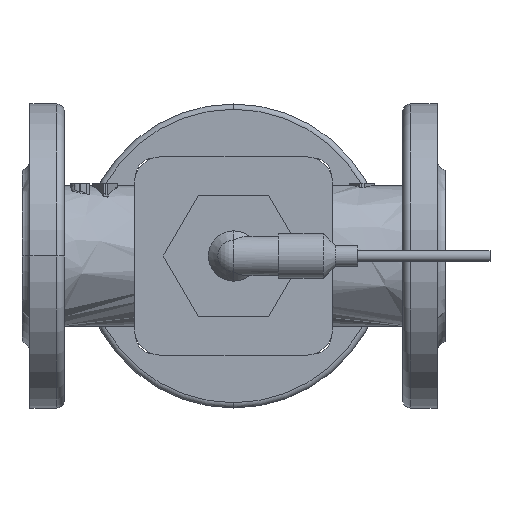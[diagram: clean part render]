
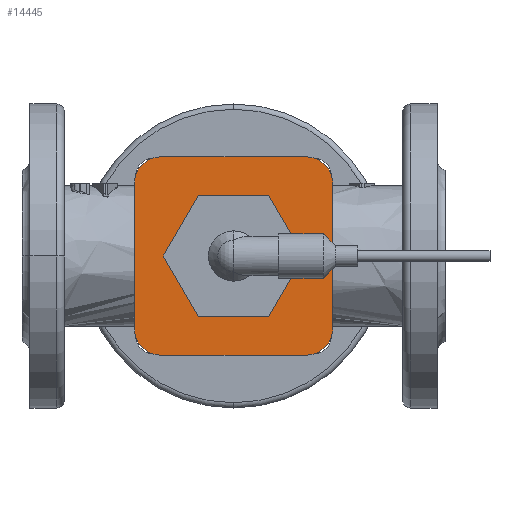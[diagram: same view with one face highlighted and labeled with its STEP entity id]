
A CAD part, front view. The second image highlights one B-rep face of the part: STEP entity #14445.
In plain terms, the highlighted planar face has unit normal (0, -1, 0).
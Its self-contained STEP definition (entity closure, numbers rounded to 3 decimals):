
#6345 = CARTESIAN_POINT ( 'NONE',  ( 0., 0., 20.5 ) ) ;
#6415 = CARTESIAN_POINT ( 'NONE',  ( 0., 0., 0. ) ) ;
#6416 = AXIS2_PLACEMENT_3D ( 'NONE', #6415, #6479, #6478 ) ;
#6417 = CIRCLE ( 'NONE', #6416, 20.5 ) ;
#6446 = DIRECTION ( 'NONE',  ( 0., 0., 1. ) ) ;
#6447 = DIRECTION ( 'NONE',  ( 0., 1., 0. ) ) ;
#6448 = CARTESIAN_POINT ( 'NONE',  ( 27.5, 0., -27.5 ) ) ;
#6449 = AXIS2_PLACEMENT_3D ( 'NONE', #6448, #6447, #6446 ) ;
#6450 = CARTESIAN_POINT ( 'NONE',  ( 27.5, 0., -27.5 ) ) ;
#6451 = PLANE ( 'NONE',  #6449 ) ;
#6452 = FACE_BOUND ( 'NONE', #14469, .T. ) ;
#6453 = FACE_OUTER_BOUND ( 'NONE', #14429, .T. ) ;
#6477 = CARTESIAN_POINT ( 'NONE',  ( 0., 0., -20.5 ) ) ;
#6478 = DIRECTION ( 'NONE',  ( 0., 0., 1. ) ) ;
#6479 = DIRECTION ( 'NONE',  ( 0., 1., 0. ) ) ;
#6498 = CARTESIAN_POINT ( 'NONE',  ( 37.5, 0., 27.5 ) ) ;
#6499 = DIRECTION ( 'NONE',  ( 0., 0., -1. ) ) ;
#6500 = VECTOR ( 'NONE', #6499, 1000. ) ;
#6501 = CARTESIAN_POINT ( 'NONE',  ( 37.5, 0., -27.5 ) ) ;
#6502 = LINE ( 'NONE', #6501, #6500 ) ;
#6503 = CARTESIAN_POINT ( 'NONE',  ( 27.5, 0., -37.5 ) ) ;
#6504 = CARTESIAN_POINT ( 'NONE',  ( 37.5, 0., -27.5 ) ) ;
#6505 = DIRECTION ( 'NONE',  ( 0., 0., 1. ) ) ;
#6506 = DIRECTION ( 'NONE',  ( 0., 1., 0. ) ) ;
#6507 = AXIS2_PLACEMENT_3D ( 'NONE', #6450, #6506, #6505 ) ;
#6508 = CIRCLE ( 'NONE', #6507, 10. ) ;
#6509 = CARTESIAN_POINT ( 'NONE',  ( 27.5, 0., 37.5 ) ) ;
#6510 = DIRECTION ( 'NONE',  ( 0., 0., 1. ) ) ;
#6511 = DIRECTION ( 'NONE',  ( 0., 1., 0. ) ) ;
#6512 = CARTESIAN_POINT ( 'NONE',  ( 27.5, 0., 27.5 ) ) ;
#6513 = AXIS2_PLACEMENT_3D ( 'NONE', #6512, #6511, #6510 ) ;
#6514 = CIRCLE ( 'NONE', #6513, 10. ) ;
#6530 = DIRECTION ( 'NONE',  ( 0., 0., 1. ) ) ;
#6531 = DIRECTION ( 'NONE',  ( 0., 1., 0. ) ) ;
#6532 = CARTESIAN_POINT ( 'NONE',  ( 0., 0., 0. ) ) ;
#6533 = AXIS2_PLACEMENT_3D ( 'NONE', #6532, #6531, #6530 ) ;
#6534 = CIRCLE ( 'NONE', #6533, 20.5 ) ;
#6535 = DIRECTION ( 'NONE',  ( -1., 0., 0. ) ) ;
#6536 = VECTOR ( 'NONE', #6535, 1000. ) ;
#6537 = CARTESIAN_POINT ( 'NONE',  ( -27.5, 0., -37.5 ) ) ;
#6538 = LINE ( 'NONE', #6537, #6536 ) ;
#6549 = CARTESIAN_POINT ( 'NONE',  ( -27.5, 0., -37.5 ) ) ;
#6550 = DIRECTION ( 'NONE',  ( 0., 0., 1. ) ) ;
#6551 = DIRECTION ( 'NONE',  ( 0., 1., 0. ) ) ;
#6552 = CARTESIAN_POINT ( 'NONE',  ( -27.5, 0., -27.5 ) ) ;
#6553 = AXIS2_PLACEMENT_3D ( 'NONE', #6552, #6551, #6550 ) ;
#6554 = CIRCLE ( 'NONE', #6553, 10. ) ;
#6555 = CARTESIAN_POINT ( 'NONE',  ( -37.5, 0., -27.5 ) ) ;
#6556 = DIRECTION ( 'NONE',  ( 0., 0., 1. ) ) ;
#6557 = VECTOR ( 'NONE', #6556, 1000. ) ;
#6558 = CARTESIAN_POINT ( 'NONE',  ( -37.5, 0., -27.5 ) ) ;
#6559 = LINE ( 'NONE', #6558, #6557 ) ;
#6560 = CARTESIAN_POINT ( 'NONE',  ( -37.5, 0., 27.5 ) ) ;
#6561 = DIRECTION ( 'NONE',  ( 0., 0., 1. ) ) ;
#6562 = DIRECTION ( 'NONE',  ( 0., 1., 0. ) ) ;
#6563 = CARTESIAN_POINT ( 'NONE',  ( -27.5, 0., 27.5 ) ) ;
#6564 = AXIS2_PLACEMENT_3D ( 'NONE', #6563, #6562, #6561 ) ;
#6565 = CIRCLE ( 'NONE', #6564, 10. ) ;
#6566 = CARTESIAN_POINT ( 'NONE',  ( -27.5, 0., 37.5 ) ) ;
#6567 = DIRECTION ( 'NONE',  ( 1., 0., 0. ) ) ;
#6568 = VECTOR ( 'NONE', #6567, 1000. ) ;
#6569 = CARTESIAN_POINT ( 'NONE',  ( -27.5, 0., 37.5 ) ) ;
#6570 = LINE ( 'NONE', #6569, #6568 ) ;
#14391 = VERTEX_POINT ( 'NONE', #6345 ) ;
#14429 = EDGE_LOOP ( 'NONE', ( #14446, #14450, #14482, #14485, #14488, #14491, #14494, #14467 ) ) ;
#14431 = EDGE_CURVE ( 'NONE', #14432, #14391, #6417, .T. ) ;
#14432 = VERTEX_POINT ( 'NONE', #6477 ) ;
#14445 = ADVANCED_FACE ( 'NONE', ( #6453, #6452 ), #6451, .F. ) ;
#14446 = ORIENTED_EDGE ( 'NONE', *, *, #14447, .F. ) ;
#14447 = EDGE_CURVE ( 'NONE', #14448, #14449, #6508, .T. ) ;
#14448 = VERTEX_POINT ( 'NONE', #6504 ) ;
#14449 = VERTEX_POINT ( 'NONE', #6503 ) ;
#14450 = ORIENTED_EDGE ( 'NONE', *, *, #14451, .F. ) ;
#14451 = EDGE_CURVE ( 'NONE', #14452, #14448, #6502, .T. ) ;
#14452 = VERTEX_POINT ( 'NONE', #6498 ) ;
#14467 = ORIENTED_EDGE ( 'NONE', *, *, #14468, .F. ) ;
#14468 = EDGE_CURVE ( 'NONE', #14449, #14496, #6538, .T. ) ;
#14469 = EDGE_LOOP ( 'NONE', ( #14470, #14471 ) ) ;
#14470 = ORIENTED_EDGE ( 'NONE', *, *, #14431, .T. ) ;
#14471 = ORIENTED_EDGE ( 'NONE', *, *, #14472, .T. ) ;
#14472 = EDGE_CURVE ( 'NONE', #14391, #14432, #6534, .T. ) ;
#14482 = ORIENTED_EDGE ( 'NONE', *, *, #14483, .F. ) ;
#14483 = EDGE_CURVE ( 'NONE', #14484, #14452, #6514, .T. ) ;
#14484 = VERTEX_POINT ( 'NONE', #6509 ) ;
#14485 = ORIENTED_EDGE ( 'NONE', *, *, #14486, .F. ) ;
#14486 = EDGE_CURVE ( 'NONE', #14487, #14484, #6570, .T. ) ;
#14487 = VERTEX_POINT ( 'NONE', #6566 ) ;
#14488 = ORIENTED_EDGE ( 'NONE', *, *, #14489, .F. ) ;
#14489 = EDGE_CURVE ( 'NONE', #14490, #14487, #6565, .T. ) ;
#14490 = VERTEX_POINT ( 'NONE', #6560 ) ;
#14491 = ORIENTED_EDGE ( 'NONE', *, *, #14492, .F. ) ;
#14492 = EDGE_CURVE ( 'NONE', #14493, #14490, #6559, .T. ) ;
#14493 = VERTEX_POINT ( 'NONE', #6555 ) ;
#14494 = ORIENTED_EDGE ( 'NONE', *, *, #14495, .F. ) ;
#14495 = EDGE_CURVE ( 'NONE', #14496, #14493, #6554, .T. ) ;
#14496 = VERTEX_POINT ( 'NONE', #6549 ) ;
